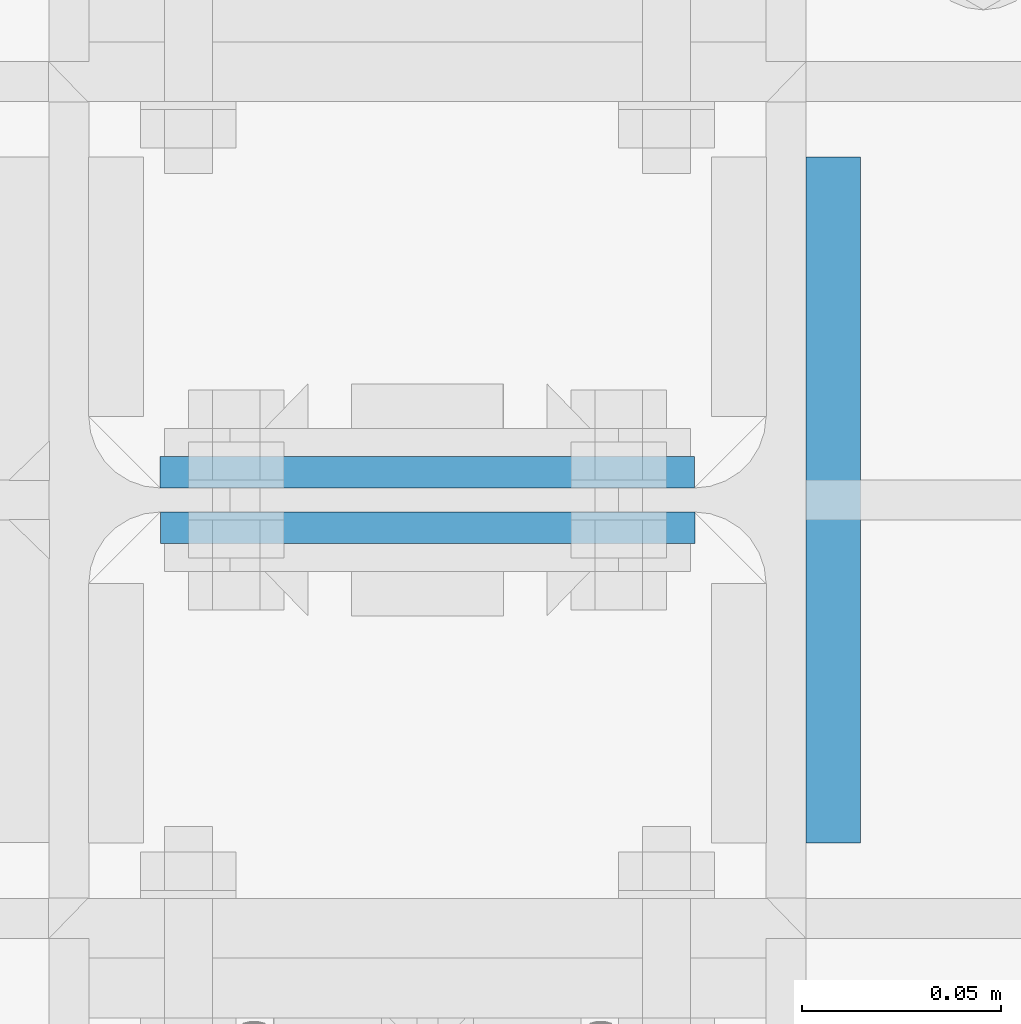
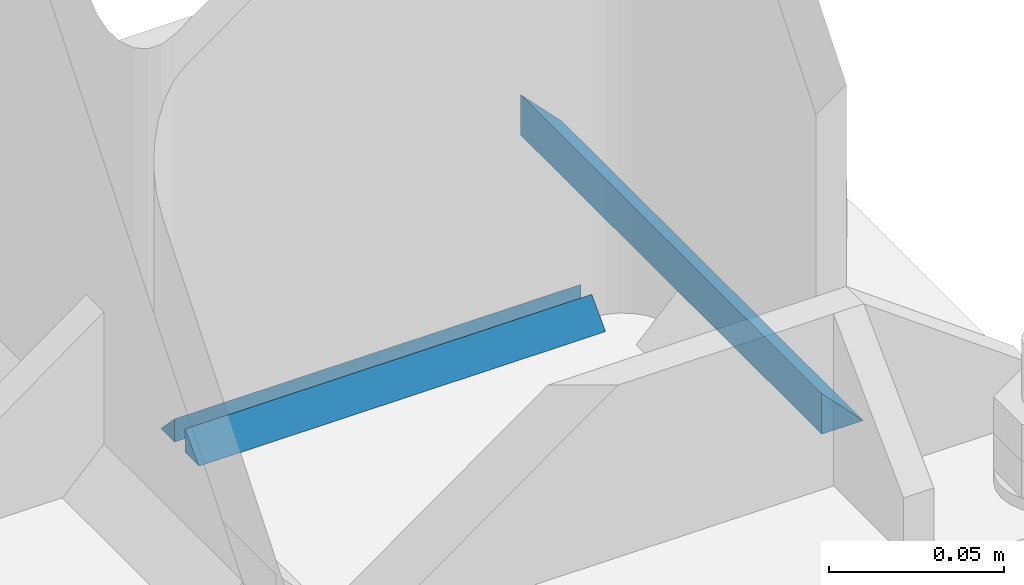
# One storey, part 42 of 251: 6 fasteners.
"""IFC4 building model written with IfcOpenShell, lengths in metres."""

from ifc_helpers import new_model, si_unit, frame, origin_with_axes, place, context, project, spatial, polyline, outline, extrude, type_object, element, save


model = new_model("IFC4")

# Units and contexts
model_context = context("Model", 3, precision=1e-05, world=origin_with_axes())
ifc_project = project(units=[si_unit("LENGTHUNIT", "METRE"), si_unit("AREAUNIT", "SQUARE_METRE"), si_unit("VOLUMEUNIT", "CUBIC_METRE"), si_unit("MASSUNIT", "GRAM", prefix="KILO"), si_unit("TIMEUNIT", "SECOND"), si_unit("PLANEANGLEUNIT", "RADIAN"), si_unit("SOLIDANGLEUNIT", "STERADIAN"), si_unit("THERMODYNAMICTEMPERATUREUNIT", "DEGREE_CELSIUS")], contexts=[model_context])

# Site, building, storey
placement_1 = place(None, origin_with_axes())
site = spatial("IfcSite", under=ifc_project, at=placement_1, Name="Italia", CompositionType="ELEMENT")
building = spatial("IfcBuilding", under=site, at=placement_1, Name="Deposito", CompositionType="ELEMENT")
storey = spatial("IfcBuildingStorey", under=building, at=placement_1, Name="Storey 0", CompositionType="ELEMENT", Elevation=0.0)

# Fasteners
fastener_type_1 = type_object("IfcFastenerType", Name="Collegamenti 0014_-001 0016_-054 0018_-056 0032_-002 0033_-058 0047_-003 0048_-060 0062_-004 0063_-005 0079_-008", PredefinedType="WELD")
placement_2 = place(placement_1, origin_with_axes())
fastener_1_placement = place(placement_2, origin_with_axes())
element("IfcFastener", 1, at=fastener_1_placement, inside=storey, type_object=fastener_type_1, Name="Collegamenti 0014_-001 0016_-054 0018_-056 0032_-002 0033_-058 0047_-003 0048_-060 0062_-004 0063_-005 0079_-008", context=model_context, shape_type="SweptSolid", body=[
    extrude(outline(polyline([(0.0, 0.0), (0.0137482, 0.0141734), (0.0137482, 0.0), (0.0, 0.0)])), frame((20.1087, 9.91395, 0.07495), z_axis=(0.0, 1.0, 0.0), x_axis=(-1.0, 0.0, 0.0)), (0.0, 0.0, 1.0), 0.1721),
])
fastener_type_2 = type_object("IfcFastenerType", Name="Collegamenti 0014_-001 0016_-054 0018_-056 0032_-002 0033_-058 0047_-003 0048_-060 0062_-004 0063_-005 0079_-008", PredefinedType="WELD")
fastener_2_placement = place(placement_2, origin_with_axes())
element("IfcFastener", 2, at=fastener_2_placement, inside=storey, type_object=fastener_type_2, Name="Collegamenti 0014_-001 0016_-054 0018_-056 0032_-002 0033_-058 0047_-003 0048_-060 0062_-004 0063_-005 0079_-008", context=model_context, shape_type="SweptSolid", body=[
    extrude(outline(polyline([(0.0, 0.0), (0.00792885, 0.00817336), (0.00792885, 0.0), (0.0, 0.0)])), frame((20.067, 10.0109, 0.07495), z_axis=(-1.0, 0.0, 0.0), x_axis=(0.0, -1.0, 0.0)), (0.0, 0.0, 1.0), 0.134098),
])
fastener_type_3 = type_object("IfcFastenerType", Name="Collegamenti 0014_-001 0016_-054 0018_-056 0032_-002 0033_-058 0047_-003 0048_-060 0062_-004 0063_-005 0079_-008", PredefinedType="WELD")
fastener_3_placement = place(placement_2, origin_with_axes())
element("IfcFastener", 3, at=fastener_3_placement, inside=storey, type_object=fastener_type_3, Name="Collegamenti 0014_-001 0016_-054 0018_-056 0032_-002 0033_-058 0047_-003 0048_-060 0062_-004 0063_-005 0079_-008", context=model_context, shape_type="SweptSolid", body=[
    extrude(outline(polyline([(0.0, 0.0), (0.00792885, 0.00817336), (0.00792885, 0.0), (0.0, 0.0)])), frame((19.933, 9.98912, 0.07495), z_axis=(1.0, 0.0, 0.0), x_axis=(0.0, 1.0, 0.0)), (0.0, 0.0, 1.0), 0.134098),
])
fastener_type_4 = type_object("IfcFastenerType", Name="Collegamenti 0014_-001 0016_-054 0018_-056 0032_-002 0033_-058 0047_-003 0048_-060 0062_-004 0063_-005 0079_-008", PredefinedType="WELD")
fastener_4_placement = place(placement_2, origin_with_axes())
element("IfcFastener", 4, at=fastener_4_placement, inside=storey, type_object=fastener_type_4, Name="Collegamenti 0014_-001 0016_-054 0018_-056 0032_-002 0033_-058 0047_-003 0048_-060 0062_-004 0063_-005 0079_-008", context=model_context, shape_type="SweptSolid", body=[
    extrude(outline(polyline([(0.0, 0.0), (0.0137482, 0.0141734), (0.0137482, 0.0), (0.0, 0.0)])), frame((20.1087, 9.91395, 0.07495), z_axis=(0.0, 1.0, 0.0), x_axis=(-1.0, 0.0, 0.0)), (0.0, 0.0, 1.0), 0.1721),
])
fastener_type_5 = type_object("IfcFastenerType", Name="Collegamenti 0014_-001 0016_-054 0018_-056 0032_-002 0033_-058 0047_-003 0048_-060 0062_-004 0063_-005 0079_-008", PredefinedType="WELD")
fastener_5_placement = place(placement_2, origin_with_axes())
element("IfcFastener", 5, at=fastener_5_placement, inside=storey, type_object=fastener_type_5, Name="Collegamenti 0014_-001 0016_-054 0018_-056 0032_-002 0033_-058 0047_-003 0048_-060 0062_-004 0063_-005 0079_-008", context=model_context, shape_type="SweptSolid", body=[
    extrude(outline(polyline([(0.0, 0.0), (0.00792885, 0.00817336), (0.00792885, 0.0), (0.0, 0.0)])), frame((20.067, 10.0109, 0.07495), z_axis=(-1.0, 0.0, 0.0), x_axis=(0.0, -1.0, 0.0)), (0.0, 0.0, 1.0), 0.134098),
])
fastener_type_6 = type_object("IfcFastenerType", Name="Collegamenti 0014_-001 0016_-054 0018_-056 0032_-002 0033_-058 0047_-003 0048_-060 0062_-004 0063_-005 0079_-008", PredefinedType="WELD")
fastener_6_placement = place(placement_2, origin_with_axes())
element("IfcFastener", 6, at=fastener_6_placement, inside=storey, type_object=fastener_type_6, Name="Collegamenti 0014_-001 0016_-054 0018_-056 0032_-002 0033_-058 0047_-003 0048_-060 0062_-004 0063_-005 0079_-008", context=model_context, shape_type="SweptSolid", body=[
    extrude(outline(polyline([(0.0, 0.0), (0.00792885, 0.00817336), (0.00792885, 0.0), (0.0, 0.0)])), frame((19.933, 9.98912, 0.07495), z_axis=(1.0, 0.0, 0.0), x_axis=(0.0, 1.0, 0.0)), (0.0, 0.0, 1.0), 0.134098),
])

save(model, "model.ifc")
